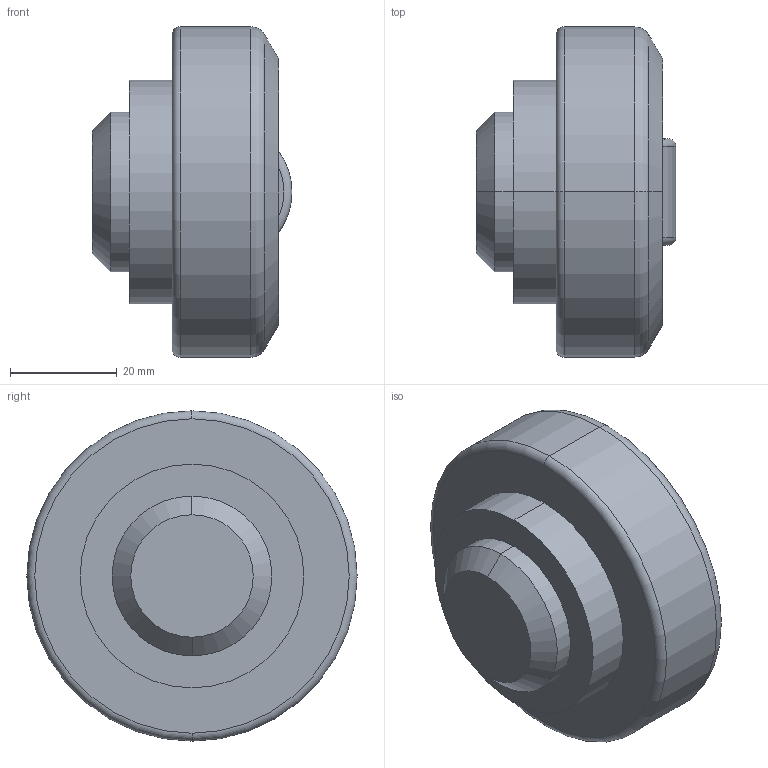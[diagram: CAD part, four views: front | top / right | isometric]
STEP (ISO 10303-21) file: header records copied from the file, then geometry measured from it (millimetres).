
FILE_DESCRIPTION (( 'STEP AP203' ), '1' );
FILE_NAME ('3D40054.STEP', '2002-11-20T09:57:04', ( 'Francesc' ), ( 'propia' ), 'SwSTEP 2.0', 'SolidWorks 2001039', '' );
FILE_SCHEMA (( 'CONFIG_CONTROL_DESIGN' ));
Length unit declared in the file: millimetre
Products named in the file (1): 2
Bounding box: 37.5 x 62 x 62 mm (x, y, z)
Volume: 74307.9 mm3; surface area: 10791.6 mm2
Topology: 1 solids, 1 shells, 23 faces, 46 edges, 28 vertices
Faces by surface type: cylinder 7, plane 6, torus 6, cone 4
Entity records: 721 total; most frequent: CARTESIAN_POINT 146, DIRECTION 118, ORIENTED_EDGE 92, AXIS2_PLACEMENT_3D 52, EDGE_CURVE 46, VERTEX_POINT 28, CIRCLE 28, EDGE_LOOP 26
